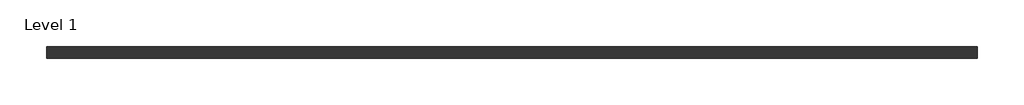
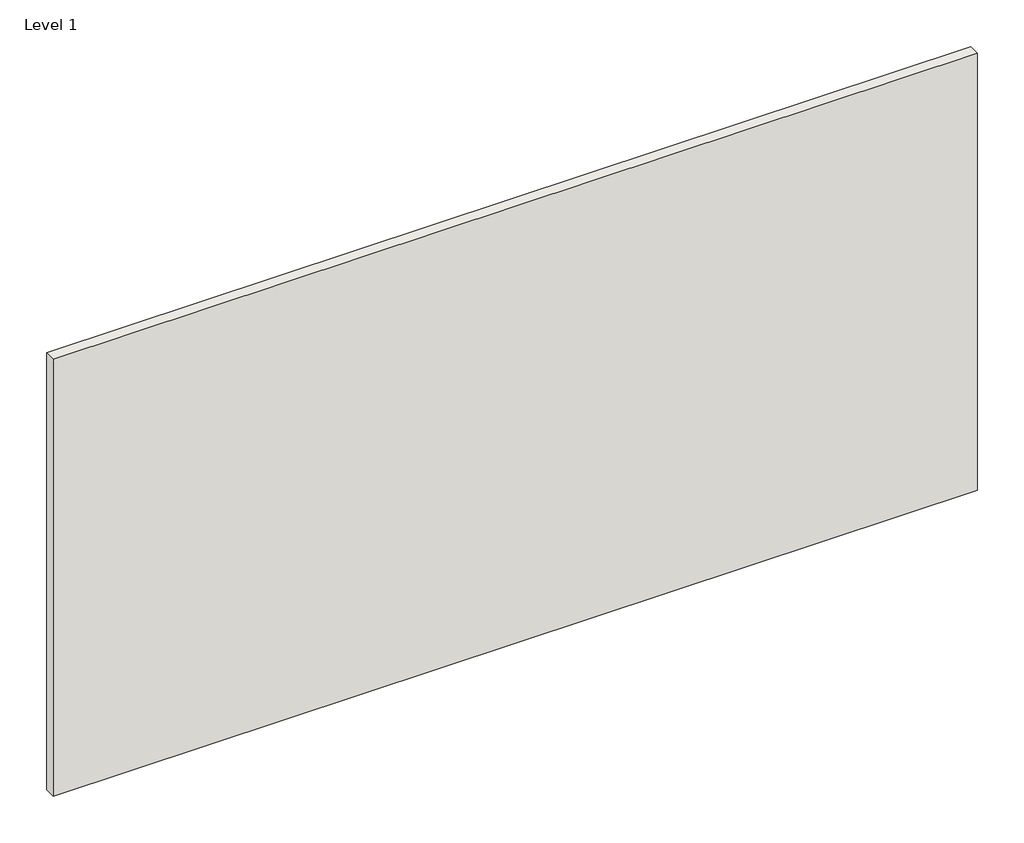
# One storey: 1 wall.
"""IFC4 building model written with IfcOpenShell, lengths in millimetres."""

import ifcopenshell
import ifcopenshell.guid

model = None  # the IFC model being written
_history = None  # IfcOwnerHistory: only IFC2X3 demands one
_inside = {}  # id of a spatial element -> (the spatial element, [elements in it])
_under = {}  # id of a project, library or spatial element -> (it, [spatial elements below it])
_declared = {}  # id of a project -> (the project, [libraries it declares])
_typed = {}  # id of a type object -> (the type object, [elements of that type])
_made_of = {}  # id of a material, layer set ... -> (it, [elements and type objects made of it])


def new_model(schema):
    """Start an empty IFC model of exactly this schema.

    Asked for "IFC4X3", IfcOpenShell would pick the latest addendum, in which some entities
    have other attributes; the version numbers below select the first issue.
    IFC2X3 requires an IfcOwnerHistory on every rooted entity: one is made here for all.
    """
    global model, _history
    if schema == "IFC4X3":
        model = ifcopenshell.file(schema_version=(4, 3, 0, 0))
    else:
        model = ifcopenshell.file(schema=schema)
    _inside.clear()
    _under.clear()
    _declared.clear()
    _typed.clear()
    _made_of.clear()
    _history = None
    if model.schema == "IFC2X3":
        org = make("IfcOrganization", Name="unknown")
        user = make(
            "IfcPersonAndOrganization",
            ThePerson=make("IfcPerson", FamilyName="unknown"),
            TheOrganization=org,
        )
        app = make(
            "IfcApplication",
            ApplicationDeveloper=org,
            Version="unknown",
            ApplicationFullName="unknown",
            ApplicationIdentifier="unknown",
        )
        _history = make(
            "IfcOwnerHistory",
            OwningUser=user,
            OwningApplication=app,
            ChangeAction="ADDED",
            CreationDate=0,
        )
    return model


def make(cls, **values):
    """One entity of the class cls with the attributes given. An attribute that is None is left unset."""
    return model.create_entity(
        cls, **{name: value for name, value in values.items() if value is not None}
    )


def rooted(cls, **values):
    """An entity with a GlobalId (a new one), such as an element, a storey or a relation."""
    return make(cls, GlobalId=ifcopenshell.guid.new(), OwnerHistory=_history, **values)


def si_unit(unit_type, name, prefix=None):
    """IfcSIUnit, for example si_unit("LENGTHUNIT", "METRE", prefix="MILLI")."""
    return make("IfcSIUnit", UnitType=unit_type, Prefix=prefix, Name=name)


def assignment(units):
    """IfcUnitAssignment: the units of a project."""
    return None if units is None else make("IfcUnitAssignment", Units=units)


def point(xyz):
    """IfcCartesianPoint."""
    return None if xyz is None else make("IfcCartesianPoint", Coordinates=xyz)


def direction(xyz):
    """IfcDirection."""
    return None if xyz is None else make("IfcDirection", DirectionRatios=xyz)


def frame(location, z_axis=None, x_axis=None):
    """IfcAxis2Placement3D, a coordinate frame: its origin and axes. An axis left out is left unset."""
    return make(
        "IfcAxis2Placement3D",
        Location=point(location),
        Axis=direction(z_axis),
        RefDirection=direction(x_axis),
    )


def origin():
    """The frame at (0, 0, 0) with its axes left unset."""
    return frame((0.0, 0.0, 0.0))


def origin_with_axes():
    """The frame at (0, 0, 0) with the z axis (0, 0, 1) and the x axis (1, 0, 0) written out."""
    return frame((0.0, 0.0, 0.0), z_axis=(0.0, 0.0, 1.0), x_axis=(1.0, 0.0, 0.0))


def place(relative_to, where):
    """IfcLocalPlacement: puts the frame where relative to a parent placement (None: the world)."""
    return make(
        "IfcLocalPlacement", PlacementRelTo=relative_to, RelativePlacement=where
    )


def context(
    kind, dimensions, precision=None, world=None, true_north=None, identifier=None
):
    """IfcGeometricRepresentationContext, for example the 3D "Model" context."""
    return make(
        "IfcGeometricRepresentationContext",
        ContextIdentifier=identifier,
        ContextType=kind,
        CoordinateSpaceDimension=dimensions,
        Precision=precision,
        WorldCoordinateSystem=world,
        TrueNorth=true_north,
    )


def project(units=None, contexts=None):
    """IfcProject with its units and contexts."""
    return rooted(
        "IfcProject",
        Name="project",
        RepresentationContexts=contexts,
        UnitsInContext=assignment(units),
    )


def spatial(cls, under=None, at=None, **own):
    """A site, building, storey or space (cls), placed at a placement, below another one or the project."""
    s = rooted(cls, ObjectPlacement=at, **own)
    if under is not None:
        _under.setdefault(under.id(), (under, []))[1].append(s)
    return s


def polyline(points):
    """IfcPolyline through the points."""
    return make("IfcPolyline", Points=[point(p) for p in points])


def outline(outer, holes=None, kind="AREA"):
    """IfcArbitraryClosedProfileDef: a profile drawn as a closed curve; with holes, ...WithVoids."""
    if holes is None:
        return make("IfcArbitraryClosedProfileDef", ProfileType=kind, OuterCurve=outer)
    return make(
        "IfcArbitraryProfileDefWithVoids",
        ProfileType=kind,
        OuterCurve=outer,
        InnerCurves=holes,
    )


def extrude(swept, where, along, depth):
    """IfcExtrudedAreaSolid: the profile swept, set in the frame where, extruded along a direction by depth."""
    return make(
        "IfcExtrudedAreaSolid",
        SweptArea=swept,
        Position=where,
        ExtrudedDirection=direction(along),
        Depth=depth,
    )


def shape(context_of_items, identifier, shape_type, items):
    """IfcShapeRepresentation: the items that make up one representation, for example the "Body"."""
    return make(
        "IfcShapeRepresentation",
        ContextOfItems=context_of_items,
        RepresentationIdentifier=identifier,
        RepresentationType=shape_type,
        Items=items,
    )


def made_of(thing, what):
    """Note that an element or type object is made of a material, layer set ...; save() writes the relation."""
    if what is not None:
        _made_of.setdefault(what.id(), (what, []))[1].append(thing)
    return thing


def element(
    cls,
    number,
    at=None,
    inside=None,
    cuts=None,
    type_object=None,
    material=None,
    context=None,
    identifier="Body",
    shape_type=None,
    held_by="IfcProductDefinitionShape",
    body=None,
    shapes=None,
    **own,
):
    """One element of the class cls, such as IfcWall. Its Tag is "e" and its number.

    at: its placement. inside: the storey or other place that contains it. cuts: it is an
    opening in that element (IfcRelVoidsElement). A single representation is given by context,
    identifier, shape_type and body (its items); several are given by shapes. held_by: the class
    of the entity that holds the representations. save() writes the other relations.
    """
    e = rooted(cls, Tag="e%d" % number, ObjectPlacement=at, **own)
    if body is not None:
        shapes = [shape(context, identifier, shape_type, body)]
    if shapes is not None:
        e.Representation = make(held_by, Representations=shapes)
    if inside is not None:
        _inside.setdefault(inside.id(), (inside, []))[1].append(e)
    if cuts is not None:
        rooted(
            "IfcRelVoidsElement", RelatingBuildingElement=cuts, RelatedOpeningElement=e
        )
    if type_object is not None:
        _typed.setdefault(type_object.id(), (type_object, []))[1].append(e)
    return made_of(e, material)


def aggregate(whole, parts):
    """IfcRelAggregates: a whole, such as a stair, and the parts it consists of."""
    return rooted("IfcRelAggregates", RelatingObject=whole, RelatedObjects=parts)


def save(model, path):
    """Write the relations noted so far, then the file.

    IfcRelAggregates (storeys below a building ...), IfcRelContainedInSpatialStructure (elements
    in a storey), IfcRelDefinesByType, IfcRelAssociatesMaterial and IfcRelDeclares: one each for
    every whole, place, type object, material and project.
    """
    for whole, parts in _under.values():
        aggregate(whole, parts)
    for where, things in _inside.values():
        rooted(
            "IfcRelContainedInSpatialStructure",
            RelatedElements=things,
            RelatingStructure=where,
        )
    for kind, things in _typed.values():
        rooted("IfcRelDefinesByType", RelatedObjects=things, RelatingType=kind)
    for what, things in _made_of.values():
        rooted("IfcRelAssociatesMaterial", RelatedObjects=things, RelatingMaterial=what)
    for by, libraries in _declared.values():
        rooted("IfcRelDeclares", RelatingContext=by, RelatedDefinitions=libraries)
    model.write(path)


model = new_model("IFC4")

# Units and contexts
model_context = context("Model", 3, world=origin())
ifc_project = project(units=[si_unit("LENGTHUNIT", "METRE", prefix="MILLI")], contexts=[model_context])

# Site, building, storey
site = spatial("IfcSite", under=ifc_project)
building = spatial("IfcBuilding", under=site)
storey = spatial("IfcBuildingStorey", under=building, Name="Level 1", Elevation=0.0)

# Wall
placement = place(None, origin())
element("IfcWall", 1, ObjectType="Metal_Panel-MBCI-Architectural-ShadowRib", at=placement, inside=storey, context=model_context, shape_type="SweptSolid", body=[
    extrude(outline(polyline([(-4936.1158266, -9620.7306511), (1159.8841734, -9620.7306511), (1159.8841734, -9696.9306511), (-4936.1158266, -9696.9306511), (-4936.1158266, -9620.7306511)])), origin_with_axes(), (0.0, 0.0, 1.0), 3048.0),
])

save(model, "model.ifc")
